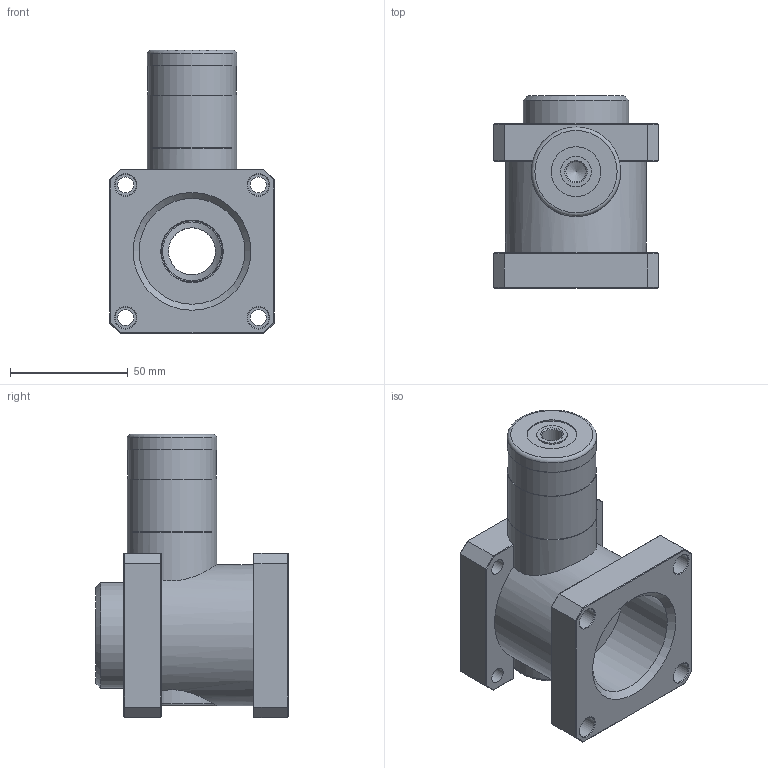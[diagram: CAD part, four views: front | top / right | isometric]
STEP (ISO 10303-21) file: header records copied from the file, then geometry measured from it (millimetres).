
FILE_DESCRIPTION(('STEP AP242'),'1');
FILE_NAME('A.6025 + MA.7063 Feststellpatrone mit Zylinderaufnahme.stp','2026-07-01T13:22:06',(' '),(' '),'Spatial InterOp 3D',' ',' ');
FILE_SCHEMA(('AP242_MANAGED_MODEL_BASED_3D_ENGINEERING_MIM_LF {1 0 10303 442 1 1 4}'));
Length unit declared in the file: millimetre
Products named in the file (3): A.6025 + MA.7063 Feststellpatrone mit Zylinderaufnahme; MV.5063.02; A.6025 Feststellpatrone
Assembly tree (2 placements, depth 2):
  A.6025 + MA.7063 Feststellpatrone mit Zylinderaufnahme
    MV.5063.02
    A.6025 Feststellpatrone
Bounding box: 70 x 82 x 120.5 mm (x, y, z)
Volume: 261491.5 mm3; surface area: 58671 mm2
Topology: 2 solids, 2 shells, 108 faces, 250 edges, 153 vertices
Faces by surface type: plane 69, cylinder 25, cone 12, torus 2
Full cylindrical faces by diameter (mm): 6.8 x4, 8.566 x2, 9 x4, 13 x1, 20 x1, 21.2 x1, 25 x1, 26 x1, 27 x2, 37.5 x1, 38 x3, 38.111 x1, 45 x2, 60 x1
Entity records: 4360 total; most frequent: CARTESIAN_POINT 940, DIRECTION 478, ORIENTED_EDGE 400, EDGE_CURVE 200, EDGE_LOOP 178, AXIS2_PLACEMENT_3D 173, VERTEX_POINT 143, FACE_OUTER_BOUND 135
